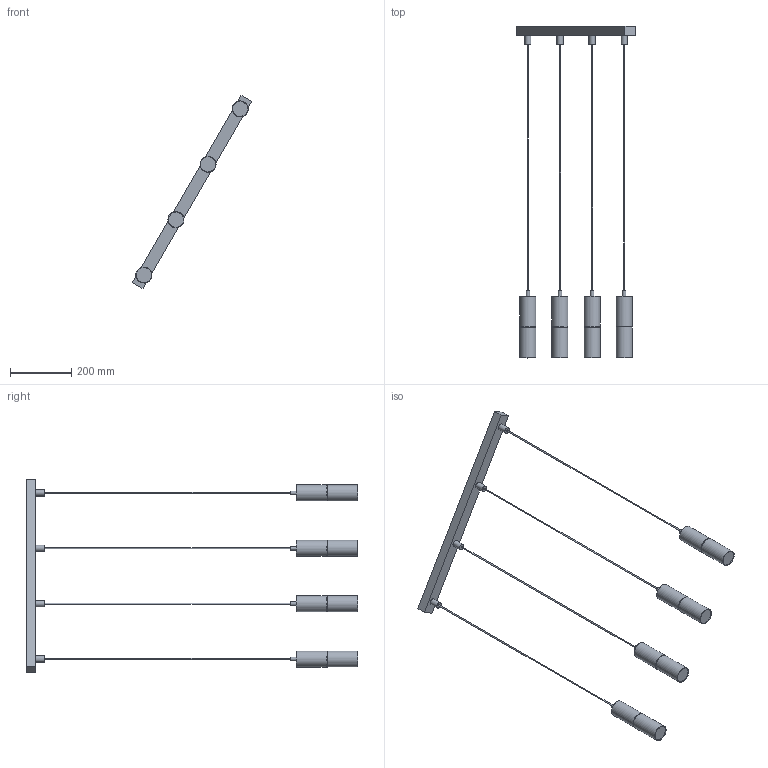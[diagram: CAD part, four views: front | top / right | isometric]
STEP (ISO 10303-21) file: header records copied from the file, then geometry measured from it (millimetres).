
FILE_DESCRIPTION(/* description */ (''),/* implementation_level */ '2;1');
FILE_NAME(/* name */ 'D:\TK Lighting\Projekty Lamp\Lampa Logan Black Gold 4_4367.stp',/* time_stamp */ '2020-09-28T20:30:46+02:00',/* author */ ('Admin'),/* organization */ (''),/* preprocessor_version */ 'ST-DEVELOPER v16.5',/* originating_system */ 'Autodesk Inventor 2017',/* authorisation */ '');
FILE_SCHEMA (('AUTOMOTIVE_DESIGN { 1 0 10303 214 3 1 1 }'));
Products named in the file (6): Lampa Logan Black Gold 4_4367; Zawiesie_4; Lampa Logan Black Gold do 4; Lampa Logan Black Gold bez zawiesia; Klosz Złoty 4368; Klosz
Assembly tree (11 placements, depth 3):
  Lampa Logan Black Gold 4_4367
    Zawiesie_4
    Lampa Logan Black Gold do 4  x4
    Lampa Logan Black Gold bez zawiesia  x4
      Klosz Złoty 4368
      Klosz
Bounding box: 388.13 x 1080 x 630.01 mm (x, y, z)
Volume: 2539557.2 mm3; surface area: 561745.4 mm2
Topology: 21 solids, 21 shells, 90 faces, 120 edges, 80 vertices
Faces by surface type: plane 54, cylinder 36
Full cylindrical faces by diameter (mm): 4 x4, 12 x4, 20 x4, 49 x8, 50 x8, 52 x8
Entity records: 949 total; most frequent: DIRECTION 160, CARTESIAN_POINT 118, AXIS2_PLACEMENT_3D 74, ORIENTED_EDGE 72, EDGE_LOOP 54, EDGE_CURVE 36, STYLED_ITEM 35, FACE_OUTER_BOUND 33
